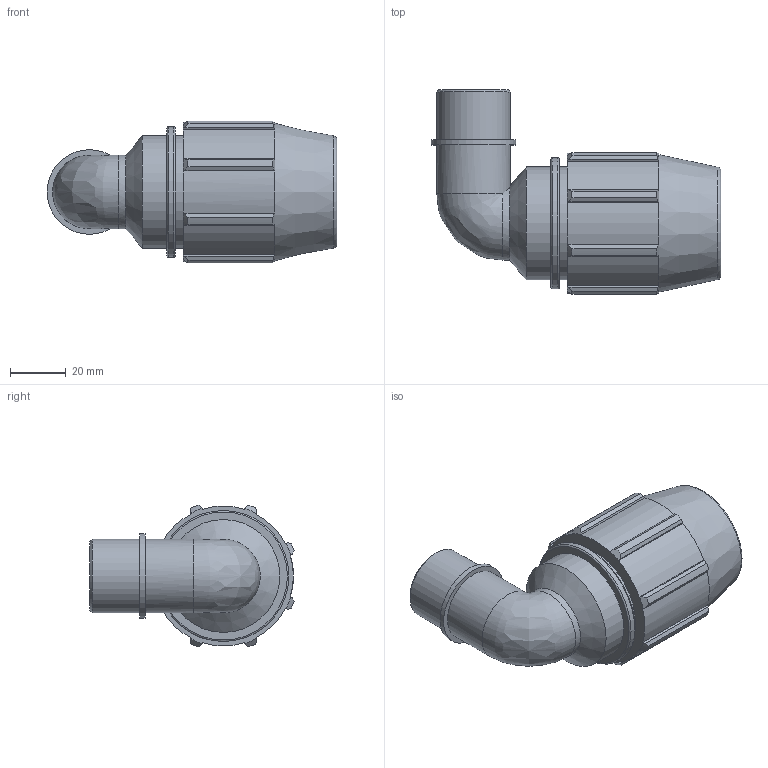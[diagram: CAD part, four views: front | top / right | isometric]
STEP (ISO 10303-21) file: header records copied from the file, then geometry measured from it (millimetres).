
FILE_DESCRIPTION(/* description */ ('PLASSON 90° ELBOW MALE ADAPTOR 3/4''''-3/4''''M'),/* implementation_level */ '2;1');
FILE_NAME(/* name */ 'C:\Dropbox\KIMPROJECTS-Inventor 2019\99-16-3568-Processing Inch\ASTM Compression 2021\0785M0\0785M0007007.ipt.stp',/* time_stamp */ '2021-08-26T12:35:33+03:00',/* author */ ('KIM'),/* organization */ (''),/* preprocessor_version */ 'ST-DEVELOPER v17.2',/* originating_system */ 'Autodesk Inventor 2019',/* authorisation */ '');
FILE_SCHEMA (('AUTOMOTIVE_DESIGN { 1 0 10303 214 3 1 1 }'));
Length unit declared in the file: inch
Products named in the file (1): 0785M0007007
Bounding box: 104.1 x 73.46 x 50.91 mm (x, y, z)
Volume: 106668.6 mm3; surface area: 29233.9 mm2
Topology: 1 solids, 1 shells, 86 faces, 249 edges, 170 vertices
Faces by surface type: plane 41, cylinder 26, cone 14, torus 4, bspline 1
Full cylindrical faces by diameter (mm): 18.509 x2, 26.441 x2, 26.6 x1, 30.407 x1, 40.576 x2, 47.069 x1
Entity records: 3026 total; most frequent: CARTESIAN_POINT 604, ORIENTED_EDGE 494, DIRECTION 487, EDGE_CURVE 247, AXIS2_PLACEMENT_3D 188, VERTEX_POINT 170, LINE 111, VECTOR 111
